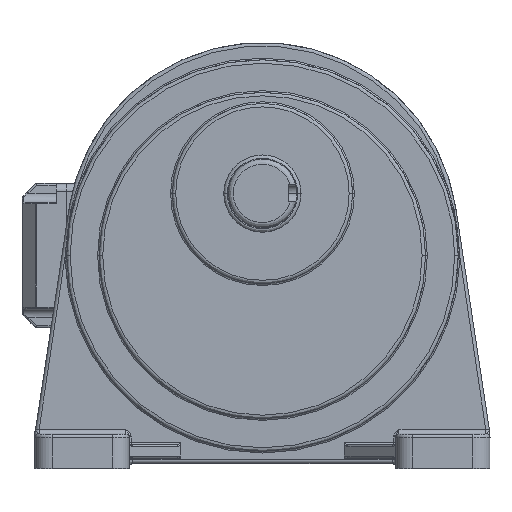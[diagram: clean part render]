
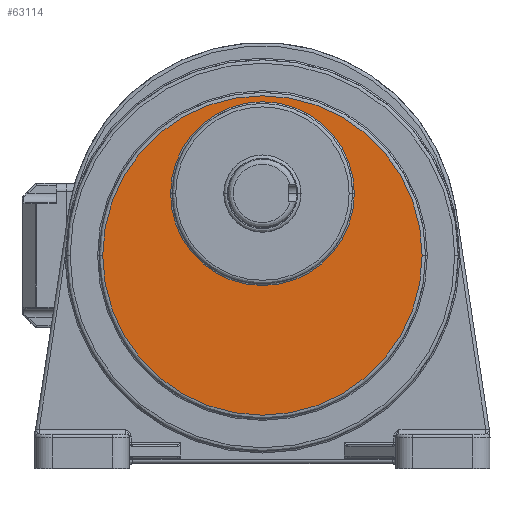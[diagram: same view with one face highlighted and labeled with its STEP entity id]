
A CAD part, top view. The second image highlights one B-rep face of the part: STEP entity #63114.
In plain terms, the highlighted planar face has unit normal (0, 0, 1).
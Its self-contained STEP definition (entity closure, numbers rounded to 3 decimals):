
#1548 = DIRECTION ( 'NONE',  ( 0., 0., 1. ) ) ;
#4526 = DIRECTION ( 'NONE',  ( 0., 0., 1. ) ) ;
#6015 = CARTESIAN_POINT ( 'NONE',  ( -51.471, -207.513, 214.448 ) ) ;
#8724 = EDGE_CURVE ( 'NONE', #73329, #42989, #66402, .T. ) ;
#8832 = AXIS2_PLACEMENT_3D ( 'NONE', #11762, #4526, #48214 ) ;
#11762 = CARTESIAN_POINT ( 'NONE',  ( 41.529, -171.513, 214.448 ) ) ;
#13112 = VERTEX_POINT ( 'NONE', #33345 ) ;
#13879 = CIRCLE ( 'NONE', #62565, 93. ) ;
#14742 = PLANE ( 'NONE',  #68531 ) ;
#15554 = FACE_OUTER_BOUND ( 'NONE', #48367, .T. ) ;
#15827 = EDGE_LOOP ( 'NONE', ( #56843, #79409 ) ) ;
#16315 = DIRECTION ( 'NONE',  ( -1., 0., 0. ) ) ;
#17301 = DIRECTION ( 'NONE',  ( 1., 0., 0. ) ) ;
#18535 = VERTEX_POINT ( 'NONE', #71654 ) ;
#20362 = FACE_BOUND ( 'NONE', #15827, .T. ) ;
#20586 = DIRECTION ( 'NONE',  ( 0., 0., 1. ) ) ;
#25988 = DIRECTION ( 'NONE',  ( 1., 0., 0. ) ) ;
#28728 = DIRECTION ( 'NONE',  ( 0., 0., 1. ) ) ;
#29990 = ORIENTED_EDGE ( 'NONE', *, *, #8724, .T. ) ;
#33345 = CARTESIAN_POINT ( 'NONE',  ( -11.971, -171.513, 214.448 ) ) ;
#37165 = ORIENTED_EDGE ( 'NONE', *, *, #75786, .T. ) ;
#39433 = AXIS2_PLACEMENT_3D ( 'NONE', #75555, #20586, #45069 ) ;
#42989 = VERTEX_POINT ( 'NONE', #55994 ) ;
#45069 = DIRECTION ( 'NONE',  ( -1., 0., 0. ) ) ;
#45277 = EDGE_CURVE ( 'NONE', #13112, #18535, #67758, .T. ) ;
#47037 = CIRCLE ( 'NONE', #57286, 53.5 ) ;
#48214 = DIRECTION ( 'NONE',  ( 1., 0., 0. ) ) ;
#48367 = EDGE_LOOP ( 'NONE', ( #37165, #29990 ) ) ;
#48578 = DIRECTION ( 'NONE',  ( 0., 0., 1. ) ) ;
#55994 = CARTESIAN_POINT ( 'NONE',  ( 134.529, -207.513, 214.448 ) ) ;
#56843 = ORIENTED_EDGE ( 'NONE', *, *, #71724, .F. ) ;
#57286 = AXIS2_PLACEMENT_3D ( 'NONE', #77899, #48578, #17301 ) ;
#62565 = AXIS2_PLACEMENT_3D ( 'NONE', #70103, #28728, #16315 ) ;
#63114 = ADVANCED_FACE ( 'NONE', ( #15554, #20362 ), #14742, .T. ) ;
#66402 = CIRCLE ( 'NONE', #39433, 93. ) ;
#67758 = CIRCLE ( 'NONE', #8832, 53.5 ) ;
#68531 = AXIS2_PLACEMENT_3D ( 'NONE', #68929, #1548, #25988 ) ;
#68929 = CARTESIAN_POINT ( 'NONE',  ( 41.529, -207.513, 214.448 ) ) ;
#70103 = CARTESIAN_POINT ( 'NONE',  ( 41.529, -207.513, 214.448 ) ) ;
#71654 = CARTESIAN_POINT ( 'NONE',  ( 95.029, -171.513, 214.448 ) ) ;
#71724 = EDGE_CURVE ( 'NONE', #18535, #13112, #47037, .T. ) ;
#73329 = VERTEX_POINT ( 'NONE', #6015 ) ;
#75555 = CARTESIAN_POINT ( 'NONE',  ( 41.529, -207.513, 214.448 ) ) ;
#75786 = EDGE_CURVE ( 'NONE', #42989, #73329, #13879, .T. ) ;
#77899 = CARTESIAN_POINT ( 'NONE',  ( 41.529, -171.513, 214.448 ) ) ;
#79409 = ORIENTED_EDGE ( 'NONE', *, *, #45277, .F. ) ;
